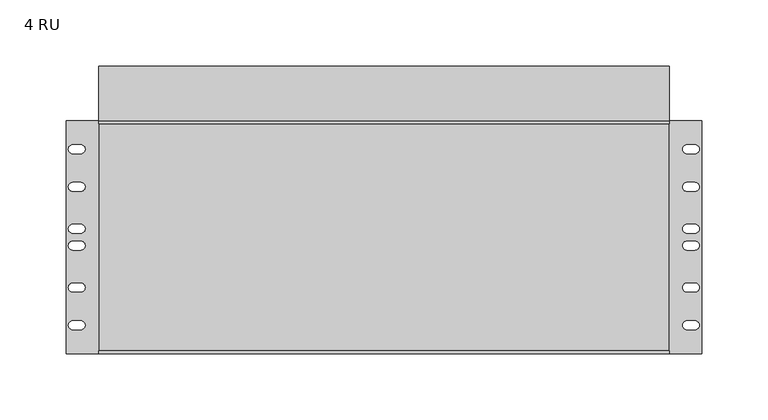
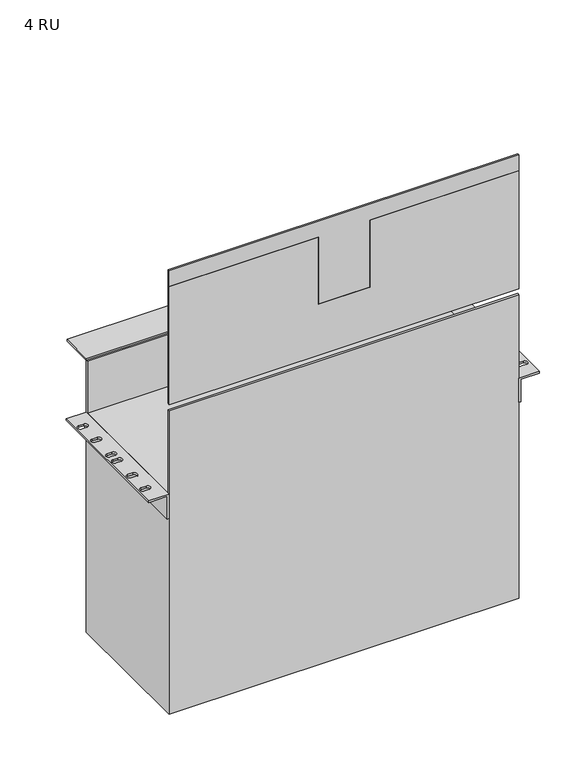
"""IFC4 building model written with IfcOpenShell, lengths in millimetres: electric appliance geometry, Housing-Rack_Mount-Corning-Plug_&_Play-PCH : 4 RU."""

import ifcopenshell
import ifcopenshell.guid

model = None  # the IFC model being written
_history = None  # IfcOwnerHistory: only IFC2X3 demands one
_inside = {}  # id of a spatial element -> (the spatial element, [elements in it])
_under = {}  # id of a project, library or spatial element -> (it, [spatial elements below it])
_declared = {}  # id of a project -> (the project, [libraries it declares])
_typed = {}  # id of a type object -> (the type object, [elements of that type])
_made_of = {}  # id of a material, layer set ... -> (it, [elements and type objects made of it])


def new_model(schema):
    """Start an empty IFC model of exactly this schema.

    Asked for "IFC4X3", IfcOpenShell would pick the latest addendum, in which some entities
    have other attributes; the version numbers below select the first issue.
    IFC2X3 requires an IfcOwnerHistory on every rooted entity: one is made here for all.
    """
    global model, _history
    if schema == "IFC4X3":
        model = ifcopenshell.file(schema_version=(4, 3, 0, 0))
    else:
        model = ifcopenshell.file(schema=schema)
    _inside.clear()
    _under.clear()
    _declared.clear()
    _typed.clear()
    _made_of.clear()
    _history = None
    if model.schema == "IFC2X3":
        org = make("IfcOrganization", Name="unknown")
        user = make(
            "IfcPersonAndOrganization",
            ThePerson=make("IfcPerson", FamilyName="unknown"),
            TheOrganization=org,
        )
        app = make(
            "IfcApplication",
            ApplicationDeveloper=org,
            Version="unknown",
            ApplicationFullName="unknown",
            ApplicationIdentifier="unknown",
        )
        _history = make(
            "IfcOwnerHistory",
            OwningUser=user,
            OwningApplication=app,
            ChangeAction="ADDED",
            CreationDate=0,
        )
    return model


def make(cls, **values):
    """One entity of the class cls with the attributes given. An attribute that is None is left unset."""
    return model.create_entity(
        cls, **{name: value for name, value in values.items() if value is not None}
    )


def rooted(cls, **values):
    """An entity with a GlobalId (a new one), such as an element, a storey or a relation."""
    return make(cls, GlobalId=ifcopenshell.guid.new(), OwnerHistory=_history, **values)


def si_unit(unit_type, name, prefix=None):
    """IfcSIUnit, for example si_unit("LENGTHUNIT", "METRE", prefix="MILLI")."""
    return make("IfcSIUnit", UnitType=unit_type, Prefix=prefix, Name=name)


def assignment(units):
    """IfcUnitAssignment: the units of a project."""
    return None if units is None else make("IfcUnitAssignment", Units=units)


def point(xyz):
    """IfcCartesianPoint."""
    return None if xyz is None else make("IfcCartesianPoint", Coordinates=xyz)


def direction(xyz):
    """IfcDirection."""
    return None if xyz is None else make("IfcDirection", DirectionRatios=xyz)


def frame(location, z_axis=None, x_axis=None):
    """IfcAxis2Placement3D, a coordinate frame: its origin and axes. An axis left out is left unset."""
    return make(
        "IfcAxis2Placement3D",
        Location=point(location),
        Axis=direction(z_axis),
        RefDirection=direction(x_axis),
    )


def origin():
    """The frame at (0, 0, 0) with its axes left unset."""
    return frame((0.0, 0.0, 0.0))


def place(relative_to, where):
    """IfcLocalPlacement: puts the frame where relative to a parent placement (None: the world)."""
    return make(
        "IfcLocalPlacement", PlacementRelTo=relative_to, RelativePlacement=where
    )


def context(
    kind, dimensions, precision=None, world=None, true_north=None, identifier=None
):
    """IfcGeometricRepresentationContext, for example the 3D "Model" context."""
    return make(
        "IfcGeometricRepresentationContext",
        ContextIdentifier=identifier,
        ContextType=kind,
        CoordinateSpaceDimension=dimensions,
        Precision=precision,
        WorldCoordinateSystem=world,
        TrueNorth=true_north,
    )


def project(units=None, contexts=None):
    """IfcProject with its units and contexts."""
    return rooted(
        "IfcProject",
        Name="project",
        RepresentationContexts=contexts,
        UnitsInContext=assignment(units),
    )


def spatial(cls, under=None, at=None, **own):
    """A site, building, storey or space (cls), placed at a placement, below another one or the project."""
    s = rooted(cls, ObjectPlacement=at, **own)
    if under is not None:
        _under.setdefault(under.id(), (under, []))[1].append(s)
    return s


def polyline(points):
    """IfcPolyline through the points."""
    return make("IfcPolyline", Points=[point(p) for p in points])


def circle_curve(where, radius):
    """IfcCircle in the frame where."""
    return make("IfcCircle", Position=where, Radius=radius)


def outline(outer, holes=None, kind="AREA"):
    """IfcArbitraryClosedProfileDef: a profile drawn as a closed curve; with holes, ...WithVoids."""
    if holes is None:
        return make("IfcArbitraryClosedProfileDef", ProfileType=kind, OuterCurve=outer)
    return make(
        "IfcArbitraryProfileDefWithVoids",
        ProfileType=kind,
        OuterCurve=outer,
        InnerCurves=holes,
    )


def extrude(swept, where, along, depth):
    """IfcExtrudedAreaSolid: the profile swept, set in the frame where, extruded along a direction by depth."""
    return make(
        "IfcExtrudedAreaSolid",
        SweptArea=swept,
        Position=where,
        ExtrudedDirection=direction(along),
        Depth=depth,
    )


def shape(context_of_items, identifier, shape_type, items):
    """IfcShapeRepresentation: the items that make up one representation, for example the "Body"."""
    return make(
        "IfcShapeRepresentation",
        ContextOfItems=context_of_items,
        RepresentationIdentifier=identifier,
        RepresentationType=shape_type,
        Items=items,
    )


def source(mapping_origin, context_of_items, identifier, shape_type, items):
    """IfcRepresentationMap: a shape defined once, which mapped items show again and again."""
    return make(
        "IfcRepresentationMap",
        MappingOrigin=mapping_origin,
        MappedRepresentation=shape(context_of_items, identifier, shape_type, items),
    )


def transform(
    local_origin,
    x_axis=None,
    y_axis=None,
    z_axis=None,
    scale=None,
    scale2=None,
    scale3=None,
    uniform=True,
):
    """IfcCartesianTransformationOperator3D, or its non-uniform kind. x_axis, y_axis, z_axis: its Axis1, 2, 3."""
    if uniform:
        return make(
            "IfcCartesianTransformationOperator3D",
            Axis1=direction(x_axis),
            Axis2=direction(y_axis),
            LocalOrigin=point(local_origin),
            Scale=scale,
            Axis3=direction(z_axis),
        )
    return make(
        "IfcCartesianTransformationOperator3DnonUniform",
        Axis1=direction(x_axis),
        Axis2=direction(y_axis),
        LocalOrigin=point(local_origin),
        Scale=scale,
        Axis3=direction(z_axis),
        Scale2=scale2,
        Scale3=scale3,
    )


def mapped(mapping_source, mapping_target):
    """IfcMappedItem: shows the shape of a source again, moved by a transform."""
    return make(
        "IfcMappedItem", MappingSource=mapping_source, MappingTarget=mapping_target
    )


def made_of(thing, what):
    """Note that an element or type object is made of a material, layer set ...; save() writes the relation."""
    if what is not None:
        _made_of.setdefault(what.id(), (what, []))[1].append(thing)
    return thing


def element(
    cls,
    number,
    at=None,
    inside=None,
    cuts=None,
    type_object=None,
    material=None,
    context=None,
    identifier="Body",
    shape_type=None,
    held_by="IfcProductDefinitionShape",
    body=None,
    shapes=None,
    **own,
):
    """One element of the class cls, such as IfcWall. Its Tag is "e" and its number.

    at: its placement. inside: the storey or other place that contains it. cuts: it is an
    opening in that element (IfcRelVoidsElement). A single representation is given by context,
    identifier, shape_type and body (its items); several are given by shapes. held_by: the class
    of the entity that holds the representations. save() writes the other relations.
    """
    e = rooted(cls, Tag="e%d" % number, ObjectPlacement=at, **own)
    if body is not None:
        shapes = [shape(context, identifier, shape_type, body)]
    if shapes is not None:
        e.Representation = make(held_by, Representations=shapes)
    if inside is not None:
        _inside.setdefault(inside.id(), (inside, []))[1].append(e)
    if cuts is not None:
        rooted(
            "IfcRelVoidsElement", RelatingBuildingElement=cuts, RelatedOpeningElement=e
        )
    if type_object is not None:
        _typed.setdefault(type_object.id(), (type_object, []))[1].append(e)
    return made_of(e, material)


def aggregate(whole, parts):
    """IfcRelAggregates: a whole, such as a stair, and the parts it consists of."""
    return rooted("IfcRelAggregates", RelatingObject=whole, RelatedObjects=parts)


def save(model, path):
    """Write the relations noted so far, then the file.

    IfcRelAggregates (storeys below a building ...), IfcRelContainedInSpatialStructure (elements
    in a storey), IfcRelDefinesByType, IfcRelAssociatesMaterial and IfcRelDeclares: one each for
    every whole, place, type object, material and project.
    """
    for whole, parts in _under.values():
        aggregate(whole, parts)
    for where, things in _inside.values():
        rooted(
            "IfcRelContainedInSpatialStructure",
            RelatedElements=things,
            RelatingStructure=where,
        )
    for kind, things in _typed.values():
        rooted("IfcRelDefinesByType", RelatedObjects=things, RelatingType=kind)
    for what, things in _made_of.values():
        rooted("IfcRelAssociatesMaterial", RelatedObjects=things, RelatingMaterial=what)
    for by, libraries in _declared.values():
        rooted("IfcRelDeclares", RelatingContext=by, RelatedDefinitions=libraries)
    model.write(path)


def plane_surface(at):
    """IfcPlane: the flat surface through the origin of the frame at, square to its z axis."""
    return make("IfcPlane", Position=at)


def revolved_surface(curve, axis_point, axis_direction):
    """IfcSurfaceOfRevolution: the curve turned about the line through axis_point along axis_direction."""
    return make(
        "IfcSurfaceOfRevolution",
        SweptCurve=make("IfcArbitraryOpenProfileDef", ProfileType="CURVE", Curve=curve),
        AxisPosition=make("IfcAxis1Placement", Location=point(axis_point), Axis=direction(axis_direction)),
    )


def advanced_brep(points, edges, surfaces, faces):
    """IfcAdvancedBrep: a solid bounded by faces that lie on surfaces and meet in shared edges.

    An edge is (start, end): straight between two places in points (the first is 0);
    or (start, end, curve); or (start, end, curve, False) where it runs against its curve.
    A face is (place in surfaces, loops), or (place, loops, False) where it looks against
    its surface's normal. A loop lists edges by number (the first is 1), with a minus sign
    where the edge is run from its end to its start. The first loop is the outer one.
    """
    corners = [point(p) for p in points]
    vertices = [make("IfcVertexPoint", VertexGeometry=c) for c in corners]
    made = []
    for start, end, *more in edges:
        made.append(
            make(
                "IfcEdgeCurve",
                EdgeStart=vertices[start],
                EdgeEnd=vertices[end],
                EdgeGeometry=more[0] if more else make("IfcPolyline", Points=[corners[start], corners[end]]),
                SameSense=more[1] if len(more) > 1 else True,
            )
        )
    hull = []
    for where, loops, *sense in faces:
        bounds = []
        for j, loop in enumerate(loops):
            ring = [make("IfcOrientedEdge", EdgeElement=made[abs(k) - 1], Orientation=k > 0) for k in loop]
            bounds.append(
                make(
                    "IfcFaceOuterBound" if j == 0 else "IfcFaceBound",
                    Bound=make("IfcEdgeLoop", EdgeList=ring),
                    Orientation=True,
                )
            )
        hull.append(make("IfcAdvancedFace", Bounds=bounds, FaceSurface=surfaces[where], SameSense=sense[0] if sense else True))
    return make("IfcAdvancedBrep", Outer=make("IfcClosedShell", CfsFaces=hull))


def electric_appliance_4_ru_4400f168(model_context):
    return source(origin(), model_context, "Body", "SolidModel", [
        advanced_brep(
        [(-240.792, -154.94, 2.286), (-240.792, -154.94, 0.0), (-218.186, -154.94, 0.0), (-218.186, -154.94, -29.464), (-215.9, -154.94, -29.464), (-215.9, -154.94, 2.286), (-240.792, 21.4122, 2.286), (-215.9, 21.4122, 2.286), (-215.9, 21.4122, -29.464), (-218.186, 21.4122, -29.464), (-218.186, 21.4122, 0.0), (-240.792, 21.4122, 0.0), (-229.6922, 3.3782, 0.0), (-235.6358, 3.3782, 0.0), (-235.6358, -3.3782, 0.0), (-229.6922, -3.3782, 0.0), (-229.6922, -25.1968, 0.0), (-235.6358, -25.1968, 0.0), (-235.6358, -31.9532, 0.0), (-229.6922, -31.9532, 0.0), (-229.6922, -56.9468, 0.0), (-235.6358, -56.9468, 0.0), (-235.6358, -63.7032, 0.0), (-229.6922, -63.7032, 0.0), (-229.6922, -69.6468, 0.0), (-235.6358, -69.6468, 0.0), (-235.6358, -76.4032, 0.0), (-229.6922, -76.4032, 0.0), (-229.6922, -101.3968, 0.0), (-235.6358, -101.3968, 0.0), (-235.6358, -108.1532, 0.0), (-229.6922, -108.1532, 0.0), (-229.6922, -129.9718, 0.0), (-235.6358, -129.9718, 0.0), (-235.6358, -136.7282, 0.0), (-229.6922, -136.7282, 0.0), (-235.6358, 3.3782, 2.286), (-229.6922, 3.3782, 2.286), (-229.6922, -3.3782, 2.286), (-235.6358, -3.3782, 2.286), (-235.6358, -25.1968, 2.286), (-229.6922, -25.1968, 2.286), (-229.6922, -31.9532, 2.286), (-235.6358, -31.9532, 2.286), (-235.6358, -56.9468, 2.286), (-229.6922, -56.9468, 2.286), (-229.6922, -63.7032, 2.286), (-235.6358, -63.7032, 2.286), (-235.6358, -69.6468, 2.286), (-229.6922, -69.6468, 2.286), (-229.6922, -76.4032, 2.286), (-235.6358, -76.4032, 2.286), (-235.6358, -101.3968, 2.286), (-229.6922, -101.3968, 2.286), (-229.6922, -108.1532, 2.286), (-235.6358, -108.1532, 2.286), (-235.6358, -129.9718, 2.286), (-229.6922, -129.9718, 2.286), (-229.6922, -136.7282, 2.286), (-235.6358, -136.7282, 2.286)],
        [
            (0, 1),
            (1, 2),
            (2, 3),
            (3, 4),
            (4, 5),
            (5, 0),
            (6, 7),
            (7, 8),
            (8, 9),
            (9, 10),
            (10, 11),
            (11, 6),
            (0, 6),
            (11, 1),
            (10, 2),
            (12, 13),
            (13, 14, circle_curve(frame((-235.6358, 0.0, 0.0), z_axis=(0.0, 0.0, 1.0), x_axis=(-1.0, 0.0, 0.0)), 3.3782)),
            (14, 15),
            (15, 12, circle_curve(frame((-229.6922, 0.0, 0.0), z_axis=(0.0, 0.0, 1.0), x_axis=(-1.0, 0.0, 0.0)), 3.3782)),
            (16, 17),
            (17, 18, circle_curve(frame((-235.6358, -28.575, 0.0), z_axis=(0.0, 0.0, 1.0), x_axis=(-1.0, 0.0, 0.0)), 3.3782)),
            (18, 19),
            (19, 16, circle_curve(frame((-229.6922, -28.575, 0.0), z_axis=(0.0, 0.0, 1.0), x_axis=(-1.0, 0.0, 0.0)), 3.3782)),
            (20, 21),
            (21, 22, circle_curve(frame((-235.6358, -60.325, 0.0), z_axis=(0.0, 0.0, 1.0), x_axis=(-1.0, 0.0, 0.0)), 3.3782)),
            (22, 23),
            (23, 20, circle_curve(frame((-229.6922, -60.325, 0.0), z_axis=(0.0, 0.0, 1.0), x_axis=(-1.0, 0.0, 0.0)), 3.3782)),
            (24, 25),
            (25, 26, circle_curve(frame((-235.6358, -73.025, 0.0), z_axis=(0.0, 0.0, 1.0), x_axis=(-1.0, 0.0, 0.0)), 3.3782)),
            (26, 27),
            (27, 24, circle_curve(frame((-229.6922, -73.025, 0.0), z_axis=(0.0, 0.0, 1.0), x_axis=(-1.0, 0.0, 0.0)), 3.3782)),
            (28, 29),
            (29, 30, circle_curve(frame((-235.6358, -104.775, 0.0), z_axis=(0.0, 0.0, 1.0), x_axis=(-1.0, 0.0, 0.0)), 3.3782)),
            (30, 31),
            (31, 28, circle_curve(frame((-229.6922, -104.775, 0.0), z_axis=(0.0, 0.0, 1.0), x_axis=(-1.0, 0.0, 0.0)), 3.3782)),
            (32, 33),
            (33, 34, circle_curve(frame((-235.6358, -133.35, 0.0), z_axis=(0.0, 0.0, 1.0), x_axis=(-1.0, 0.0, 0.0)), 3.3782)),
            (34, 35),
            (35, 32, circle_curve(frame((-229.6922, -133.35, 0.0), z_axis=(0.0, 0.0, 1.0), x_axis=(-1.0, 0.0, 0.0)), 3.3782)),
            (9, 3),
            (8, 4),
            (7, 5),
            (36, 37),
            (37, 38, circle_curve(frame((-229.6922, 0.0, 2.286), z_axis=(0.0, 0.0, -1.0), x_axis=(-1.0, 0.0, 0.0)), 3.3782)),
            (38, 39),
            (39, 36, circle_curve(frame((-235.6358, 0.0, 2.286), z_axis=(0.0, 0.0, -1.0), x_axis=(-1.0, 0.0, 0.0)), 3.3782)),
            (40, 41),
            (41, 42, circle_curve(frame((-229.6922, -28.575, 2.286), z_axis=(0.0, 0.0, -1.0), x_axis=(-1.0, 0.0, 0.0)), 3.3782)),
            (42, 43),
            (43, 40, circle_curve(frame((-235.6358, -28.575, 2.286), z_axis=(0.0, 0.0, -1.0), x_axis=(-1.0, 0.0, 0.0)), 3.3782)),
            (44, 45),
            (45, 46, circle_curve(frame((-229.6922, -60.325, 2.286), z_axis=(0.0, 0.0, -1.0), x_axis=(-1.0, 0.0, 0.0)), 3.3782)),
            (46, 47),
            (47, 44, circle_curve(frame((-235.6358, -60.325, 2.286), z_axis=(0.0, 0.0, -1.0), x_axis=(-1.0, 0.0, 0.0)), 3.3782)),
            (48, 49),
            (49, 50, circle_curve(frame((-229.6922, -73.025, 2.286), z_axis=(0.0, 0.0, -1.0), x_axis=(-1.0, 0.0, 0.0)), 3.3782)),
            (50, 51),
            (51, 48, circle_curve(frame((-235.6358, -73.025, 2.286), z_axis=(0.0, 0.0, -1.0), x_axis=(-1.0, 0.0, 0.0)), 3.3782)),
            (52, 53),
            (53, 54, circle_curve(frame((-229.6922, -104.775, 2.286), z_axis=(0.0, 0.0, -1.0), x_axis=(-1.0, 0.0, 0.0)), 3.3782)),
            (54, 55),
            (55, 52, circle_curve(frame((-235.6358, -104.775, 2.286), z_axis=(0.0, 0.0, -1.0), x_axis=(-1.0, 0.0, 0.0)), 3.3782)),
            (56, 57),
            (57, 58, circle_curve(frame((-229.6922, -133.35, 2.286), z_axis=(0.0, 0.0, -1.0), x_axis=(-1.0, 0.0, 0.0)), 3.3782)),
            (58, 59),
            (59, 56, circle_curve(frame((-235.6358, -133.35, 2.286), z_axis=(0.0, 0.0, -1.0), x_axis=(-1.0, 0.0, 0.0)), 3.3782)),
            (12, 37),
            (36, 13),
            (15, 38),
            (14, 39),
            (16, 41),
            (40, 17),
            (19, 42),
            (18, 43),
            (20, 45),
            (44, 21),
            (23, 46),
            (22, 47),
            (24, 49),
            (48, 25),
            (27, 50),
            (26, 51),
            (28, 53),
            (52, 29),
            (31, 54),
            (30, 55),
            (32, 57),
            (56, 33),
            (35, 58),
            (34, 59),
        ],
        [
            plane_surface(frame((-240.792, -154.94, 0.0), z_axis=(0.0, -1.0, 0.0), x_axis=(0.0, 0.0, -1.0))),
            plane_surface(frame((-240.792, 21.4122, 0.0), z_axis=(0.0, 1.0, 0.0), x_axis=(0.0, 0.0, 1.0))),
            plane_surface(frame((-240.792, -154.94, 2.286), z_axis=(-1.0, 0.0, 0.0), x_axis=(0.0, 1.0, 0.0))),
            plane_surface(frame((-240.792, -154.94, 0.0), z_axis=(-2.852262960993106e-12, 0.0, -1.0), x_axis=(0.0, 1.0, 0.0))),
            plane_surface(frame((-218.186, -154.94, 0.0), z_axis=(-1.0, 0.0, 0.0), x_axis=(0.0, 1.0, 0.0))),
            plane_surface(frame((-218.186, -154.94, -29.464), z_axis=(0.0, 0.0, -1.0), x_axis=(0.0, 1.0, 0.0))),
            plane_surface(frame((-215.9, -154.94, -29.464), z_axis=(1.0, 0.0, 0.0), x_axis=(0.0, 1.0, 0.0))),
            plane_surface(frame((-215.9, -154.94, 2.286), z_axis=(0.0, 0.0, 1.0), x_axis=(0.0, 1.0, 0.0))),
            plane_surface(frame((-235.6358, 3.3782, 0.0), z_axis=(0.0, -1.0, 0.0), x_axis=(0.0, 0.0, 1.0))),
            revolved_surface(polyline([(-233.0704, 0.0, 0.0), (-233.0704, 0.0, 2.286)]), (-229.6922, 0.0, 2.286), (0.0, 0.0, -1.0)),
            plane_surface(frame((-229.6922, -3.3782, 0.0), z_axis=(0.0, 1.0, 0.0), x_axis=(0.0, 0.0, 1.0))),
            revolved_surface(polyline([(-239.01399999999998, 0.0, 0.0), (-239.01399999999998, 0.0, 2.286)]), (-235.6358, 0.0, 2.286), (0.0, 0.0, -1.0)),
            plane_surface(frame((-235.6358, -25.1968, 0.0), z_axis=(0.0, -1.0, 0.0), x_axis=(0.0, 0.0, 1.0))),
            revolved_surface(polyline([(-233.0704, -28.575, 0.0), (-233.0704, -28.575, 2.286)]), (-229.6922, -28.575, 2.286), (0.0, 0.0, -1.0)),
            plane_surface(frame((-229.6922, -31.9532, 0.0), z_axis=(0.0, 1.0, 0.0), x_axis=(0.0, 0.0, 1.0))),
            revolved_surface(polyline([(-239.01399999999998, -28.575, 0.0), (-239.01399999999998, -28.575, 2.286)]), (-235.6358, -28.575, 2.286), (0.0, 0.0, -1.0)),
            plane_surface(frame((-235.6358, -56.9468, 0.0), z_axis=(0.0, -1.0, 0.0), x_axis=(0.0, 0.0, 1.0))),
            revolved_surface(polyline([(-233.0704, -60.325, 0.0), (-233.0704, -60.325, 2.286)]), (-229.6922, -60.325, 2.286), (0.0, 0.0, -1.0)),
            plane_surface(frame((-229.6922, -63.7032, 0.0), z_axis=(0.0, 1.0, 0.0), x_axis=(0.0, 0.0, 1.0))),
            revolved_surface(polyline([(-239.01399999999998, -60.325, 0.0), (-239.01399999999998, -60.325, 2.286)]), (-235.6358, -60.325, 2.286), (0.0, 0.0, -1.0)),
            plane_surface(frame((-235.6358, -69.6468, 0.0), z_axis=(0.0, -1.0, 0.0), x_axis=(0.0, 0.0, 1.0))),
            revolved_surface(polyline([(-233.0704, -73.025, 0.0), (-233.0704, -73.025, 2.286)]), (-229.6922, -73.025, 2.286), (0.0, 0.0, -1.0)),
            plane_surface(frame((-229.6922, -76.4032, 0.0), z_axis=(0.0, 1.0, 0.0), x_axis=(0.0, 0.0, 1.0))),
            revolved_surface(polyline([(-239.01399999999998, -73.025, 0.0), (-239.01399999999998, -73.025, 2.286)]), (-235.6358, -73.025, 2.286), (0.0, 0.0, -1.0)),
            plane_surface(frame((-235.6358, -101.3968, 0.0), z_axis=(0.0, -1.0, 0.0), x_axis=(0.0, 0.0, 1.0))),
            revolved_surface(polyline([(-233.0704, -104.775, 0.0), (-233.0704, -104.775, 2.286)]), (-229.6922, -104.775, 2.286), (0.0, 0.0, -1.0)),
            plane_surface(frame((-229.6922, -108.1532, 0.0), z_axis=(0.0, 1.0, 0.0), x_axis=(0.0, 0.0, 1.0))),
            revolved_surface(polyline([(-239.01399999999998, -104.775, 0.0), (-239.01399999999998, -104.775, 2.286)]), (-235.6358, -104.775, 2.286), (0.0, 0.0, -1.0)),
            plane_surface(frame((-235.6358, -129.9718, 0.0), z_axis=(0.0, -1.0, 0.0), x_axis=(0.0, 0.0, 1.0))),
            revolved_surface(polyline([(-233.0704, -133.35, 0.0), (-233.0704, -133.35, 2.286)]), (-229.6922, -133.35, 2.286), (0.0, 0.0, -1.0)),
            plane_surface(frame((-229.6922, -136.7282, 0.0), z_axis=(0.0, 1.0, 0.0), x_axis=(0.0, 0.0, 1.0))),
            revolved_surface(polyline([(-239.01399999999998, -133.35, 0.0), (-239.01399999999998, -133.35, 2.286)]), (-235.6358, -133.35, 2.286), (0.0, 0.0, -1.0)),
        ],
        [
            (0, [[1, 2, 3, 4, 5, 6]]),
            (1, [[7, 8, 9, 10, 11, 12]]),
            (2, [[-1, 13, -12, 14]]),
            (3, [[-2, -14, -11, 15], [16, 17, 18, 19], [20, 21, 22, 23], [24, 25, 26, 27], [28, 29, 30, 31], [32, 33, 34, 35], [36, 37, 38, 39]]),
            (4, [[-3, -15, -10, 40]]),
            (5, [[-4, -40, -9, 41]]),
            (6, [[-5, -41, -8, 42]]),
            (7, [[-6, -42, -7, -13], [43, 44, 45, 46], [47, 48, 49, 50], [51, 52, 53, 54], [55, 56, 57, 58], [59, 60, 61, 62], [63, 64, 65, 66]]),
            (8, [[67, -43, 68, -16]]),
            (9, [[-67, -19, 69, -44]]),
            (10, [[-69, -18, 70, -45]]),
            (11, [[-68, -46, -70, -17]]),
            (12, [[71, -47, 72, -20]]),
            (13, [[-71, -23, 73, -48]]),
            (14, [[-73, -22, 74, -49]]),
            (15, [[-72, -50, -74, -21]]),
            (16, [[75, -51, 76, -24]]),
            (17, [[-75, -27, 77, -52]]),
            (18, [[-77, -26, 78, -53]]),
            (19, [[-76, -54, -78, -25]]),
            (20, [[79, -55, 80, -28]]),
            (21, [[-79, -31, 81, -56]]),
            (22, [[-81, -30, 82, -57]]),
            (23, [[-80, -58, -82, -29]]),
            (24, [[83, -59, 84, -32]]),
            (25, [[-83, -35, 85, -60]]),
            (26, [[-85, -34, 86, -61]]),
            (27, [[-84, -62, -86, -33]]),
            (28, [[87, -63, 88, -36]]),
            (29, [[-87, -39, 89, -64]]),
            (30, [[-89, -38, 90, -65]]),
            (31, [[-88, -66, -90, -37]]),
        ],
    ),
        advanced_brep(
        [(240.792, -154.94, 2.286), (215.9, -154.94, 2.286), (215.9, -154.94, -29.464), (218.186, -154.94, -29.464), (218.186, -154.94, 0.0), (240.792, -154.94, 0.0), (240.792, 21.4122, 2.286), (240.792, 21.4122, 0.0), (218.186, 21.4122, 0.0), (218.186, 21.4122, -29.464), (215.9, 21.4122, -29.464), (215.9, 21.4122, 2.286), (229.4382, 3.3782, 2.286), (235.3818, 3.3782, 2.286), (235.3818, -3.3782, 2.286), (229.4382, -3.3782, 2.286), (229.4382, -25.1968, 2.286), (235.3818, -25.1968, 2.286), (235.3818, -31.9532, 2.286), (229.4382, -31.9532, 2.286), (229.4382, -56.9468, 2.286), (235.3818, -56.9468, 2.286), (235.3818, -63.7032, 2.286), (229.4382, -63.7032, 2.286), (229.4382, -69.6468, 2.286), (235.3818, -69.6468, 2.286), (235.3818, -76.4032, 2.286), (229.4382, -76.4032, 2.286), (229.4382, -101.3968, 2.286), (235.3818, -101.3968, 2.286), (235.3818, -108.1532, 2.286), (229.4382, -108.1532, 2.286), (229.4382, -129.9718, 2.286), (235.3818, -129.9718, 2.286), (235.3818, -136.7282, 2.286), (229.4382, -136.7282, 2.286), (235.3818, 3.3782, 0.0), (229.4382, 3.3782, 0.0), (229.4382, -3.3782, 0.0), (235.3818, -3.3782, 0.0), (235.3818, -25.1968, 0.0), (229.4382, -25.1968, 0.0), (229.4382, -31.9532, 0.0), (235.3818, -31.9532, 0.0), (235.3818, -56.9468, 0.0), (229.4382, -56.9468, 0.0), (229.4382, -63.7032, 0.0), (235.3818, -63.7032, 0.0), (235.3818, -69.6468, 0.0), (229.4382, -69.6468, 0.0), (229.4382, -76.4032, 0.0), (235.3818, -76.4032, 0.0), (235.3818, -101.3968, 0.0), (229.4382, -101.3968, 0.0), (229.4382, -108.1532, 0.0), (235.3818, -108.1532, 0.0), (235.3818, -129.9718, 0.0), (229.4382, -129.9718, 0.0), (229.4382, -136.7282, 0.0), (235.3818, -136.7282, 0.0)],
        [
            (0, 1),
            (1, 2),
            (2, 3),
            (3, 4),
            (4, 5),
            (5, 0),
            (6, 7),
            (7, 8),
            (8, 9),
            (9, 10),
            (10, 11),
            (11, 6),
            (0, 6),
            (11, 1),
            (12, 13),
            (13, 14, circle_curve(frame((235.3818, 0.0, 2.286), z_axis=(0.0, 0.0, -1.0), x_axis=(-1.0, 0.0, 0.0)), 3.3782)),
            (14, 15),
            (15, 12, circle_curve(frame((229.4382, 0.0, 2.286), z_axis=(0.0, 0.0, -1.0), x_axis=(-1.0, 0.0, 0.0)), 3.3782)),
            (16, 17),
            (17, 18, circle_curve(frame((235.3818, -28.575, 2.286), z_axis=(0.0, 0.0, -1.0), x_axis=(-1.0, 0.0, 0.0)), 3.3782)),
            (18, 19),
            (19, 16, circle_curve(frame((229.4382, -28.575, 2.286), z_axis=(0.0, 0.0, -1.0), x_axis=(-1.0, 0.0, 0.0)), 3.3782)),
            (20, 21),
            (21, 22, circle_curve(frame((235.3818, -60.325, 2.286), z_axis=(0.0, 0.0, -1.0), x_axis=(-1.0, 0.0, 0.0)), 3.3782)),
            (22, 23),
            (23, 20, circle_curve(frame((229.4382, -60.325, 2.286), z_axis=(0.0, 0.0, -1.0), x_axis=(-1.0, 0.0, 0.0)), 3.3782)),
            (24, 25),
            (25, 26, circle_curve(frame((235.3818, -73.025, 2.286), z_axis=(0.0, 0.0, -1.0), x_axis=(-1.0, 0.0, 0.0)), 3.3782)),
            (26, 27),
            (27, 24, circle_curve(frame((229.4382, -73.025, 2.286), z_axis=(0.0, 0.0, -1.0), x_axis=(-1.0, 0.0, 0.0)), 3.3782)),
            (28, 29),
            (29, 30, circle_curve(frame((235.3818, -104.775, 2.286), z_axis=(0.0, 0.0, -1.0), x_axis=(-1.0, 0.0, 0.0)), 3.3782)),
            (30, 31),
            (31, 28, circle_curve(frame((229.4382, -104.775, 2.286), z_axis=(0.0, 0.0, -1.0), x_axis=(-1.0, 0.0, 0.0)), 3.3782)),
            (32, 33),
            (33, 34, circle_curve(frame((235.3818, -133.35, 2.286), z_axis=(0.0, 0.0, -1.0), x_axis=(-1.0, 0.0, 0.0)), 3.3782)),
            (34, 35),
            (35, 32, circle_curve(frame((229.4382, -133.35, 2.286), z_axis=(0.0, 0.0, -1.0), x_axis=(-1.0, 0.0, 0.0)), 3.3782)),
            (10, 2),
            (9, 3),
            (8, 4),
            (7, 5),
            (36, 37),
            (37, 38, circle_curve(frame((229.4382, 0.0, 0.0), z_axis=(0.0, 0.0, 1.0), x_axis=(-1.0, 0.0, 0.0)), 3.3782)),
            (38, 39),
            (39, 36, circle_curve(frame((235.3818, 0.0, 0.0), z_axis=(0.0, 0.0, 1.0), x_axis=(-1.0, 0.0, 0.0)), 3.3782)),
            (40, 41),
            (41, 42, circle_curve(frame((229.4382, -28.575, 0.0), z_axis=(0.0, 0.0, 1.0), x_axis=(-1.0, 0.0, 0.0)), 3.3782)),
            (42, 43),
            (43, 40, circle_curve(frame((235.3818, -28.575, 0.0), z_axis=(0.0, 0.0, 1.0), x_axis=(-1.0, 0.0, 0.0)), 3.3782)),
            (44, 45),
            (45, 46, circle_curve(frame((229.4382, -60.325, 0.0), z_axis=(0.0, 0.0, 1.0), x_axis=(-1.0, 0.0, 0.0)), 3.3782)),
            (46, 47),
            (47, 44, circle_curve(frame((235.3818, -60.325, 0.0), z_axis=(0.0, 0.0, 1.0), x_axis=(-1.0, 0.0, 0.0)), 3.3782)),
            (48, 49),
            (49, 50, circle_curve(frame((229.4382, -73.025, 0.0), z_axis=(0.0, 0.0, 1.0), x_axis=(-1.0, 0.0, 0.0)), 3.3782)),
            (50, 51),
            (51, 48, circle_curve(frame((235.3818, -73.025, 0.0), z_axis=(0.0, 0.0, 1.0), x_axis=(-1.0, 0.0, 0.0)), 3.3782)),
            (52, 53),
            (53, 54, circle_curve(frame((229.4382, -104.775, 0.0), z_axis=(0.0, 0.0, 1.0), x_axis=(-1.0, 0.0, 0.0)), 3.3782)),
            (54, 55),
            (55, 52, circle_curve(frame((235.3818, -104.775, 0.0), z_axis=(0.0, 0.0, 1.0), x_axis=(-1.0, 0.0, 0.0)), 3.3782)),
            (56, 57),
            (57, 58, circle_curve(frame((229.4382, -133.35, 0.0), z_axis=(0.0, 0.0, 1.0), x_axis=(-1.0, 0.0, 0.0)), 3.3782)),
            (58, 59),
            (59, 56, circle_curve(frame((235.3818, -133.35, 0.0), z_axis=(0.0, 0.0, 1.0), x_axis=(-1.0, 0.0, 0.0)), 3.3782)),
            (36, 13),
            (12, 37),
            (39, 14),
            (38, 15),
            (40, 17),
            (16, 41),
            (43, 18),
            (42, 19),
            (44, 21),
            (20, 45),
            (47, 22),
            (46, 23),
            (48, 25),
            (24, 49),
            (51, 26),
            (50, 27),
            (52, 29),
            (28, 53),
            (55, 30),
            (54, 31),
            (56, 33),
            (32, 57),
            (59, 34),
            (58, 35),
        ],
        [
            plane_surface(frame((-240.792, -154.94, 0.0), z_axis=(0.0, -1.0, 0.0), x_axis=(0.0, 0.0, -1.0))),
            plane_surface(frame((-240.792, 21.4122, 0.0), z_axis=(0.0, 1.0, 0.0), x_axis=(0.0, 0.0, 1.0))),
            plane_surface(frame((240.792, -154.94, 2.286), z_axis=(0.0, 0.0, 1.0), x_axis=(0.0, 1.0, 0.0))),
            plane_surface(frame((215.9, -154.94, 2.286), z_axis=(-1.0, 0.0, 1.9589663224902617e-12), x_axis=(0.0, 1.0, 0.0))),
            plane_surface(frame((215.9, -154.94, -29.464), z_axis=(0.0, 0.0, -1.0), x_axis=(0.0, 1.0, 0.0))),
            plane_surface(frame((218.186, -154.94, -29.464), z_axis=(1.0, 0.0, 0.0), x_axis=(0.0, 1.0, 0.0))),
            plane_surface(frame((218.186, -154.94, 0.0), z_axis=(2.431279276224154e-12, 0.0, -1.0), x_axis=(0.0, 1.0, 0.0))),
            plane_surface(frame((240.792, -154.94, 0.0), z_axis=(1.0, 0.0, 0.0), x_axis=(0.0, 1.0, 0.0))),
            plane_surface(frame((229.4382, 3.3782, 0.0), z_axis=(0.0, -1.0, 0.0), x_axis=(0.0, 0.0, 1.0))),
            revolved_surface(polyline([(232.0036, 0.0, 0.0), (232.0036, 0.0, 2.286)]), (235.3818, 0.0, 2.286), (0.0, 0.0, -1.0)),
            plane_surface(frame((235.3818, -3.3782, 0.0), z_axis=(0.0, 1.0, 0.0), x_axis=(0.0, 0.0, 1.0))),
            revolved_surface(polyline([(226.06, 0.0, 0.0), (226.06, 0.0, 2.286)]), (229.4382, 0.0, 2.286), (0.0, 0.0, -1.0)),
            plane_surface(frame((229.4382, -25.1968, 0.0), z_axis=(0.0, -1.0, 0.0), x_axis=(0.0, 0.0, 1.0))),
            revolved_surface(polyline([(232.0036, -28.575, 0.0), (232.0036, -28.575, 2.286)]), (235.3818, -28.575, 2.286), (0.0, 0.0, -1.0)),
            plane_surface(frame((235.3818, -31.9532, 0.0), z_axis=(0.0, 1.0, 0.0), x_axis=(0.0, 0.0, 1.0))),
            revolved_surface(polyline([(226.06, -28.575, 0.0), (226.06, -28.575, 2.286)]), (229.4382, -28.575, 2.286), (0.0, 0.0, -1.0)),
            plane_surface(frame((229.4382, -56.9468, 0.0), z_axis=(0.0, -1.0, 0.0), x_axis=(0.0, 0.0, 1.0))),
            revolved_surface(polyline([(232.0036, -60.325, 0.0), (232.0036, -60.325, 2.286)]), (235.3818, -60.325, 2.286), (0.0, 0.0, -1.0)),
            plane_surface(frame((235.3818, -63.7032, 0.0), z_axis=(0.0, 1.0, 0.0), x_axis=(0.0, 0.0, 1.0))),
            revolved_surface(polyline([(226.06, -60.325, 0.0), (226.06, -60.325, 2.286)]), (229.4382, -60.325, 2.286), (0.0, 0.0, -1.0)),
            plane_surface(frame((229.4382, -69.6468, 0.0), z_axis=(0.0, -1.0, 0.0), x_axis=(0.0, 0.0, 1.0))),
            revolved_surface(polyline([(232.0036, -73.025, 0.0), (232.0036, -73.025, 2.286)]), (235.3818, -73.025, 2.286), (0.0, 0.0, -1.0)),
            plane_surface(frame((235.3818, -76.4032, 0.0), z_axis=(0.0, 1.0, 0.0), x_axis=(0.0, 0.0, 1.0))),
            revolved_surface(polyline([(226.06, -73.025, 0.0), (226.06, -73.025, 2.286)]), (229.4382, -73.025, 2.286), (0.0, 0.0, -1.0)),
            plane_surface(frame((229.4382, -101.3968, 0.0), z_axis=(0.0, -1.0, 0.0), x_axis=(0.0, 0.0, 1.0))),
            revolved_surface(polyline([(232.0036, -104.775, 0.0), (232.0036, -104.775, 2.286)]), (235.3818, -104.775, 2.286), (0.0, 0.0, -1.0)),
            plane_surface(frame((235.3818, -108.1532, 0.0), z_axis=(0.0, 1.0, 0.0), x_axis=(0.0, 0.0, 1.0))),
            revolved_surface(polyline([(226.06, -104.775, 0.0), (226.06, -104.775, 2.286)]), (229.4382, -104.775, 2.286), (0.0, 0.0, -1.0)),
            plane_surface(frame((229.4382, -129.9718, 0.0), z_axis=(0.0, -1.0, 0.0), x_axis=(0.0, 0.0, 1.0))),
            revolved_surface(polyline([(232.0036, -133.35, 0.0), (232.0036, -133.35, 2.286)]), (235.3818, -133.35, 2.286), (0.0, 0.0, -1.0)),
            plane_surface(frame((235.3818, -136.7282, 0.0), z_axis=(0.0, 1.0, 0.0), x_axis=(0.0, 0.0, 1.0))),
            revolved_surface(polyline([(226.06, -133.35, 0.0), (226.06, -133.35, 2.286)]), (229.4382, -133.35, 2.286), (0.0, 0.0, -1.0)),
        ],
        [
            (0, [[1, 2, 3, 4, 5, 6]]),
            (1, [[7, 8, 9, 10, 11, 12]]),
            (2, [[-1, 13, -12, 14], [15, 16, 17, 18], [19, 20, 21, 22], [23, 24, 25, 26], [27, 28, 29, 30], [31, 32, 33, 34], [35, 36, 37, 38]]),
            (3, [[-2, -14, -11, 39]]),
            (4, [[-3, -39, -10, 40]]),
            (5, [[-4, -40, -9, 41]]),
            (6, [[-5, -41, -8, 42], [43, 44, 45, 46], [47, 48, 49, 50], [51, 52, 53, 54], [55, 56, 57, 58], [59, 60, 61, 62], [63, 64, 65, 66]]),
            (7, [[-6, -42, -7, -13]]),
            (8, [[67, -15, 68, -43]]),
            (9, [[-67, -46, 69, -16]]),
            (10, [[-69, -45, 70, -17]]),
            (11, [[-68, -18, -70, -44]]),
            (12, [[71, -19, 72, -47]]),
            (13, [[-71, -50, 73, -20]]),
            (14, [[-73, -49, 74, -21]]),
            (15, [[-72, -22, -74, -48]]),
            (16, [[75, -23, 76, -51]]),
            (17, [[-75, -54, 77, -24]]),
            (18, [[-77, -53, 78, -25]]),
            (19, [[-76, -26, -78, -52]]),
            (20, [[79, -27, 80, -55]]),
            (21, [[-79, -58, 81, -28]]),
            (22, [[-81, -57, 82, -29]]),
            (23, [[-80, -30, -82, -56]]),
            (24, [[83, -31, 84, -59]]),
            (25, [[-83, -62, 85, -32]]),
            (26, [[-85, -61, 86, -33]]),
            (27, [[-84, -34, -86, -60]]),
            (28, [[87, -35, 88, -63]]),
            (29, [[-87, -66, 89, -36]]),
            (30, [[-89, -65, 90, -37]]),
            (31, [[-88, -38, -90, -64]]),
        ],
    ),
        extrude(outline(polyline([(272.415, -31.75), (272.415, -215.9), (118.999, -215.9), (118.999, 215.9), (272.415, 215.9), (272.415, 31.75), (185.1152, 31.75), (185.1152, -31.75), (272.415, -31.75)])), frame((0.0, -154.94, 0.0), z_axis=(0.0, 1.0, 0.0), x_axis=(0.0, 0.0, 1.0)), (0.0, 0.0, 1.0), 2.286),
        extrude(outline(polyline([(272.415, -215.9), (272.415, -31.75), (185.1152, -31.75), (185.1152, 31.75), (272.415, 31.75), (272.415, 215.9), (293.0652, 215.9), (293.0652, -215.9), (272.415, -215.9)])), frame((0.0, -154.94, 0.0), z_axis=(0.0, 1.0, 0.0), x_axis=(0.0, 0.0, 1.0)), (0.0, 0.0, 1.0), 2.286),
        extrude(outline(polyline([(-215.9, 21.4122), (-215.9, 62.9054239), (215.9, 62.9054239), (215.9, 21.4122), (-215.9, 21.4122)])), frame((0.0, 0.0, 69.6317761), z_axis=(0.0, 0.0, 1.0), x_axis=(1.0, 0.0, 0.0)), (0.0, 0.0, 1.0), 2.286),
        extrude(outline(polyline([(21.4122, -284.861), (-154.94, -284.861), (-154.94, 111.125), (-152.654, 111.125), (-152.654, 2.286), (19.1262, 2.286), (19.1262, 69.6317761), (21.4122, 69.6317761), (21.4122, -284.861)])), frame((-215.9, 0.0, 0.0), z_axis=(1.0, 0.0, 0.0), x_axis=(0.0, 1.0, 0.0)), (0.0, 0.0, 1.0), 431.8),
    ])


if __name__ == "__main__":
    model = new_model("IFC4")
    model_context = context("Model", 3, world=origin())
    ifc_project = project(units=[si_unit("LENGTHUNIT", "METRE", prefix="MILLI")], contexts=[model_context])
    site = spatial("IfcSite", under=ifc_project)
    building = spatial("IfcBuilding", under=site)
    placement = place(None, origin())
    electric_appliance_4_ru_shape = electric_appliance_4_ru_4400f168(model_context)
    element("IfcElectricAppliance", 1, ObjectType="Housing-Rack_Mount-Corning-Plug_&_Play-PCH : 4 RU", at=placement, inside=building, context=model_context, shape_type="MappedRepresentation", body=[
        mapped(electric_appliance_4_ru_shape, transform((0.0, 0.0, 0.0), x_axis=(1.0, 0.0, 0.0), y_axis=(0.0, 1.0, 0.0), z_axis=(0.0, 0.0, 1.0))),
    ])
    save(model, "model.ifc")
